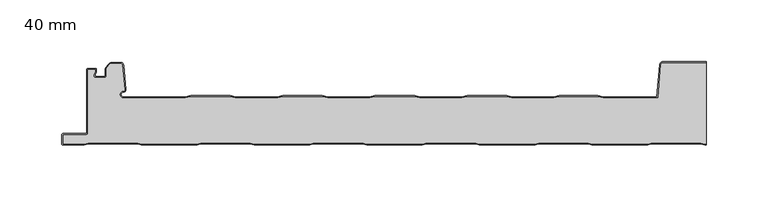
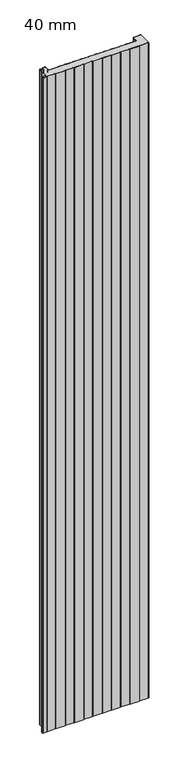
"""IFC4 building model written with IfcOpenShell, lengths in millimetres: plate geometry, HIANSA PANEL - H20.F01.002-PANELES DE CUBIERTA CON TAPAJUNTA - CUB 3GR - Panel de Muro Cortina : 40 mm."""

from ifc_helpers import new_model, si_unit, point, frame_2d, origin, origin_with_axes, place, context, project, spatial, polyline, circle_curve, trimmed, segment, composite_curve, outline, extrude, source, transform, mapped, element, save


def plate_40_mm_c3d7c6c0(model_context):
    return source(origin(), model_context, "Body", "SweptSolid", [
        extrude(outline(polyline([(-236.0046623, 15.4267187), (-236.479984, 16.25), (-236.479984, 39.4251524), (-236.0046623, 40.2484337), (-236.0046623, 15.4267187)])), origin_with_axes(), (0.0, 0.0, 1.0), 3390.8509027),
        extrude(outline(composite_curve([segment(trimmed(circle_curve(frame_2d((-236.9813919, 9.7640482)), 0.998858), [point((-235.982535, 9.7655207))], [point((-236.9813919, 8.7651902))], False, "CARTESIAN"), True, "CONTINUOUS"), segment(polyline([(-236.9813919, 8.7651902), (-255.4768579, 8.7651905)]), True, "CONTINUOUS"), segment(trimmed(circle_curve(frame_2d((-255.4798401, 8.2649415)), 0.5002578), [point((-255.4768579, 8.7651905))], [point((-255.9800979, 8.2649415))], True, "CARTESIAN"), True, "CONTINUOUS"), segment(polyline([(-255.9800979, 8.2649415), (-255.9800979, 1.0000206)]), True, "CONTINUOUS"), segment(trimmed(circle_curve(frame_2d((-255.4800361, 1.0000206)), 0.5000618), [point((-255.9800979, 1.0000206))], [point((-255.4800361, 0.4999588))], True, "CARTESIAN"), True, "CONTINUOUS"), segment(polyline([(-255.4800361, 0.4999588), (-238.321247, 0.4999588), (-235.3211235, 1.5), (-195.1588459, 1.5), (-192.1588459, 0.5), (-147.3211235, 0.5), (-144.3211235, 1.5), (-104.1588459, 1.5), (-101.1588459, 0.5), (-56.3211235, 0.5), (-53.3211235, 1.5), (-13.1588459, 1.5), (-10.1588459, 0.5), (34.6788765, 0.5), (37.6788765, 1.5), (77.8411541, 1.5), (80.8411541, 0.5), (125.6788765, 0.5), (128.6788765, 1.5), (168.8411541, 1.5), (171.8411541, 0.5), (216.6788765, 0.5), (219.6788765, 1.5), (259.8411541, 1.5), (262.8411541, 0.5), (263.9999998, 0.5), (263.9999998, 0.0), (262.7600153, 0.0), (259.7600153, 1.0), (219.7600153, 1.0), (216.7600153, 0.0), (171.7600153, 0.0), (168.7600153, 1.0), (128.7600153, 1.0), (125.7600153, 0.0), (80.7600153, 0.0), (77.7600153, 1.0), (37.7600153, 1.0), (34.7600153, 0.0), (-10.2399847, 0.0), (-13.2399847, 1.0), (-53.2399847, 1.0), (-56.2399847, 0.0), (-101.2399847, 0.0), (-104.2399847, 1.0), (-144.2399847, 1.0), (-147.2399847, 0.0), (-192.2399847, 0.0), (-195.2399847, 1.0), (-235.2399847, 1.0), (-238.2399847, 0.0), (-255.4799847, 0.0)]), True, "CONTINUOUS"), segment(trimmed(circle_curve(frame_2d((-255.4799847, 1.0)), 1.0), [point((-255.4799847, 0.0))], [point((-256.4799847, 1.0))], False, "CARTESIAN"), True, "CONTINUOUS"), segment(polyline([(-256.4799847, 1.0), (-256.4799847, 8.262651)]), True, "CONTINUOUS"), segment(trimmed(circle_curve(frame_2d((-255.4799847, 8.262651)), 1.0), [point((-256.4799847, 8.262651))], [point((-255.4799847, 9.262651))], False, "CARTESIAN"), True, "CONTINUOUS"), segment(polyline([(-255.4799847, 9.262651), (-236.9830391, 9.262651)]), True, "CONTINUOUS"), segment(trimmed(circle_curve(frame_2d((-236.979984, 9.7626416)), 0.5), [point((-236.9830391, 9.262651))], [point((-236.479984, 9.7626416))], True, "CARTESIAN"), True, "CONTINUOUS"), segment(polyline([(-236.479984, 9.7626416), (-236.479984, 16.25), (-235.982535, 15.388393), (-235.982535, 9.7655207)]), True, "CONTINUOUS")], self_intersect=False)), origin_with_axes(), (0.0, 0.0, 1.0), 3390.8509027),
        extrude(outline(composite_curve([segment(polyline([(-230.1607342, 55.8366875), (-230.1607342, 57.1797549), (-229.1700592, 59.1432549), (-229.1700592, 61.48175), (-235.9846472, 61.48175), (-235.9846472, 40.283101), (-236.4799998, 39.425125), (-236.4799998, 61.2318073)]), True, "CONTINUOUS"), segment(trimmed(circle_curve(frame_2d((-235.7368549, 61.2318073)), 0.743145), [point((-236.4799998, 61.2318073))], [point((-235.7922596, 61.972884))], False, "CARTESIAN"), True, "CONTINUOUS"), segment(polyline([(-235.7922596, 61.972884), (-229.417769, 61.972884)]), True, "CONTINUOUS"), segment(trimmed(circle_curve(frame_2d((-229.417769, 61.2297247)), 0.7431593), [point((-229.417769, 61.972884))], [point((-228.6746395, 61.2363816))], False, "CARTESIAN"), True, "CONTINUOUS"), segment(polyline([(-228.6746395, 61.2363816), (-228.6746395, 59.0275379), (-229.6653967, 57.063875), (-229.6653967, 55.59125), (-221.6198597, 55.59125), (-221.6198597, 61.9404769), (-219.4341538, 64.7321629)]), True, "CONTINUOUS"), segment(trimmed(circle_curve(frame_2d((-214.3237108, 61.5831348)), 6.0027498), [point((-219.4341538, 64.7321629))], [point((-216.9668908, 66.972625))], False, "CARTESIAN"), True, "CONTINUOUS"), segment(polyline([(-216.9668908, 66.972625), (-209.1529505, 66.972625)]), True, "CONTINUOUS"), segment(trimmed(circle_curve(frame_2d((-209.1529505, 64.4937014)), 2.4789236), [point((-209.1529505, 66.972625))], [point((-206.6875207, 64.752))], False, "CARTESIAN"), True, "CONTINUOUS"), segment(polyline([(-206.6875207, 64.752), (-204.7873909, 45.068375)]), True, "CONTINUOUS"), segment(trimmed(circle_curve(frame_2d((-206.7403789, 44.8798462)), 1.9620666), [point((-204.7873909, 45.068375))], [point((-206.7597347, 42.917875))], False, "CARTESIAN"), True, "CONTINUOUS"), segment(trimmed(circle_curve(frame_2d((-206.7790605, 40.9589375)), 1.9590328), [point((-206.7597347, 42.917875))], [point((-206.7597347, 39.0))], True, "CARTESIAN"), True, "CONTINUOUS"), segment(polyline([(-206.7597347, 39.0), (-156.7399847, 39.0), (-152.4899847, 40.0), (-120.4299847, 40.0), (-116.1799847, 39.0), (-82.2999847, 39.0), (-78.0499847, 40.0), (-45.9899847, 40.0), (-41.7399847, 39.0), (-7.8599847, 39.0), (-3.6099847, 40.0), (28.4500153, 40.0), (32.7000153, 39.0), (66.5800153, 39.0), (70.8300153, 40.0), (102.8900153, 40.0), (107.1400153, 39.0), (141.0200153, 39.0), (145.2700153, 40.0), (176.6104469, 40.0), (180.8604469, 39.0), (224.3148165, 39.0), (226.6085846, 65.2178894)]), True, "CONTINUOUS"), segment(trimmed(circle_curve(frame_2d((229.0990714, 65.0)), 2.5), [point((226.6085846, 65.2178894))], [point((229.0990714, 67.5))], False, "CARTESIAN"), True, "CONTINUOUS"), segment(polyline([(229.0990714, 67.5), (263.9999998, 67.5), (263.9999998, 67.0), (229.0990714, 67.0)]), True, "CONTINUOUS"), segment(trimmed(circle_curve(frame_2d((229.0990714, 65.0)), 2.0), [point((229.0990714, 67.0))], [point((227.106682, 65.1743115))], True, "CARTESIAN"), True, "CONTINUOUS"), segment(polyline([(227.106682, 65.1743115), (224.7729821, 38.5), (180.8020552, 38.5), (176.5520552, 39.5), (145.3280465, 39.5), (141.0780465, 38.5), (107.0819842, 38.5), (102.8319842, 39.5), (70.8880465, 39.5), (66.6380465, 38.5), (32.6419842, 38.5), (28.3919842, 39.5), (-3.5519535, 39.5), (-7.8019535, 38.5), (-41.7980158, 38.5), (-46.0480158, 39.5), (-77.9919535, 39.5), (-82.2419535, 38.5), (-116.2380158, 38.5), (-120.4880158, 39.5), (-152.4319535, 39.5), (-156.6819535, 38.5), (-206.7597347, 38.5)]), True, "CONTINUOUS"), segment(trimmed(circle_curve(frame_2d((-206.7819467, 40.954375)), 2.4544755), [point((-206.7597347, 38.5))], [point((-206.7597347, 43.40875))], False, "CARTESIAN"), True, "CONTINUOUS"), segment(trimmed(circle_curve(frame_2d((-206.746408, 44.8813199)), 1.4726302), [point((-206.7597347, 43.40875))], [point((-205.2804768, 45.021625))], True, "CARTESIAN"), True, "CONTINUOUS"), segment(polyline([(-205.2804768, 45.021625), (-207.1806067, 64.70525)]), True, "CONTINUOUS"), segment(trimmed(circle_curve(frame_2d((-209.1369286, 64.5163993)), 1.965416), [point((-207.1806067, 64.70525))], [point((-209.1529505, 66.48175))], True, "CARTESIAN"), True, "CONTINUOUS"), segment(polyline([(-209.1529505, 66.48175), (-216.9668908, 66.48175)]), True, "CONTINUOUS"), segment(trimmed(circle_curve(frame_2d((-214.3401447, 61.6061058)), 5.5382039), [point((-216.9668908, 66.48175))], [point((-218.9407012, 64.6893803))], True, "CARTESIAN"), True, "CONTINUOUS"), segment(polyline([(-218.9407012, 64.6893803), (-221.1245222, 61.9404769), (-221.1245222, 55.8366875)]), True, "CONTINUOUS"), segment(trimmed(circle_curve(frame_2d((-221.8608648, 55.8366875)), 0.7363427), [point((-221.1245222, 55.8366875))], [point((-221.8675284, 55.100375))], False, "CARTESIAN"), True, "CONTINUOUS"), segment(polyline([(-221.8675284, 55.100375), (-229.4177279, 55.100375)]), True, "CONTINUOUS"), segment(trimmed(circle_curve(frame_2d((-229.4177279, 55.8434117)), 0.7430367), [point((-229.4177279, 55.100375))], [point((-230.1607342, 55.8366875))], False, "CARTESIAN"), True, "CONTINUOUS")], self_intersect=False)), origin_with_axes(), (0.0, 0.0, 1.0), 3390.8509027),
        extrude(outline(composite_curve([segment(trimmed(circle_curve(frame_2d((-229.4377431, 55.8434117)), 0.7430367), [point((-230.1807493, 55.8366875))], [point((-229.4377431, 55.100375))], True, "CARTESIAN"), True, "CONTINUOUS"), segment(polyline([(-229.4377431, 55.100375), (-221.8875436, 55.100375)]), True, "CONTINUOUS"), segment(trimmed(circle_curve(frame_2d((-221.88088, 55.8366875)), 0.7363427), [point((-221.8875436, 55.100375))], [point((-221.1445373, 55.8366875))], True, "CARTESIAN"), True, "CONTINUOUS"), segment(polyline([(-221.1445373, 55.8366875), (-221.1445373, 61.9404769), (-218.9607164, 64.6893803)]), True, "CONTINUOUS"), segment(trimmed(circle_curve(frame_2d((-214.3601599, 61.6061058)), 5.5382039), [point((-218.9607164, 64.6893803))], [point((-216.986906, 66.48175))], False, "CARTESIAN"), True, "CONTINUOUS"), segment(polyline([(-216.986906, 66.48175), (-209.1729657, 66.48175)]), True, "CONTINUOUS"), segment(trimmed(circle_curve(frame_2d((-209.1569437, 64.5163993)), 1.965416), [point((-209.1729657, 66.48175))], [point((-207.2006218, 64.70525))], False, "CARTESIAN"), True, "CONTINUOUS"), segment(polyline([(-207.2006218, 64.70525), (-205.300492, 45.021625)]), True, "CONTINUOUS"), segment(trimmed(circle_curve(frame_2d((-206.7664232, 44.8813199)), 1.4726302), [point((-205.300492, 45.021625))], [point((-206.7797498, 43.40875))], False, "CARTESIAN"), True, "CONTINUOUS"), segment(trimmed(circle_curve(frame_2d((-206.8019618, 40.954375)), 2.4544755), [point((-206.7797498, 43.40875))], [point((-206.7797498, 38.5))], True, "CARTESIAN"), True, "CONTINUOUS"), segment(polyline([(-206.7797498, 38.5), (-156.7019687, 38.5), (-152.4519687, 39.5), (-120.508031, 39.5), (-116.258031, 38.5), (-82.2619687, 38.5), (-78.0119687, 39.5), (-46.068031, 39.5), (-41.818031, 38.5), (-7.8219687, 38.5), (-3.5719687, 39.5), (28.371969, 39.5), (32.621969, 38.5), (66.6180313, 38.5), (70.8680313, 39.5), (102.811969, 39.5), (107.061969, 38.5), (141.0580313, 38.5), (145.3080313, 39.5), (176.53204, 39.5), (180.78204, 38.5), (224.7529669, 38.5), (227.0866668, 65.1743115)]), True, "CONTINUOUS"), segment(trimmed(circle_curve(frame_2d((229.0790562, 65.0)), 2.0), [point((227.0866668, 65.1743115))], [point((229.0790562, 67.0))], False, "CARTESIAN"), True, "CONTINUOUS"), segment(polyline([(229.0790562, 67.0), (263.9999998, 67.0), (263.9999998, 0.4999588), (262.821139, 0.4999588), (259.821139, 1.4999588), (219.6588613, 1.4999588), (216.6588613, 0.4999588), (171.821139, 0.4999588), (168.821139, 1.4999588), (128.6588613, 1.4999588), (125.6588613, 0.4999588), (80.821139, 0.4999588), (77.821139, 1.4999588), (37.6588613, 1.4999588), (34.6588613, 0.4999588), (-10.178861, 0.4999588), (-13.178861, 1.4999588), (-53.3411387, 1.4999588), (-56.3411387, 0.4999588), (-101.178861, 0.4999588), (-104.178861, 1.4999588), (-144.3411387, 1.4999588), (-147.3411387, 0.4999588), (-192.178861, 0.4999588), (-195.1789845, 1.5), (-235.3411387, 1.5), (-238.3412622, 0.4999588), (-255.5000513, 0.4999588)]), True, "CONTINUOUS"), segment(trimmed(circle_curve(frame_2d((-255.5000513, 1.0000206)), 0.5000618), [point((-255.5000513, 0.4999588))], [point((-256.0001131, 1.0000206))], False, "CARTESIAN"), True, "CONTINUOUS"), segment(polyline([(-256.0001131, 1.0000206), (-256.0001131, 8.2649415)]), True, "CONTINUOUS"), segment(trimmed(circle_curve(frame_2d((-255.4998553, 8.2649415)), 0.5002578), [point((-256.0001131, 8.2649415))], [point((-255.4968731, 8.7651905))], False, "CARTESIAN"), True, "CONTINUOUS"), segment(polyline([(-255.4968731, 8.7651905), (-237.0014071, 8.7651905)]), True, "CONTINUOUS"), segment(trimmed(circle_curve(frame_2d((-237.0014071, 9.7640482)), 0.9988578), [point((-237.0014071, 8.7651905))], [point((-236.0046623, 9.8289851))], True, "CARTESIAN"), True, "CONTINUOUS"), segment(polyline([(-236.0046623, 9.8289851), (-236.0046623, 61.48175), (-229.1900743, 61.48175), (-229.1900743, 59.1432549), (-230.1807493, 57.1797549), (-230.1807493, 55.8366875)]), True, "CONTINUOUS")], self_intersect=False)), origin_with_axes(), (0.0, 0.0, 1.0), 3390.8509027),
    ])


if __name__ == "__main__":
    model = new_model("IFC4")
    model_context = context("Model", 3, world=origin())
    ifc_project = project(units=[si_unit("LENGTHUNIT", "METRE", prefix="MILLI")], contexts=[model_context])
    site = spatial("IfcSite", under=ifc_project)
    building = spatial("IfcBuilding", under=site)
    placement = place(None, origin())
    plate_40_mm_shape = plate_40_mm_c3d7c6c0(model_context)
    element("IfcPlate", 1, ObjectType="HIANSA PANEL - H20.F01.002-PANELES DE CUBIERTA CON TAPAJUNTA - CUB 3GR - Panel de Muro Cortina : 40 mm", at=placement, inside=building, context=model_context, shape_type="MappedRepresentation", body=[
        mapped(plate_40_mm_shape, transform((0.0, 0.0, 0.0), x_axis=(1.0, 0.0, 0.0), y_axis=(0.0, 1.0, 0.0), z_axis=(0.0, 0.0, 1.0))),
    ])
    save(model, "model.ifc")
